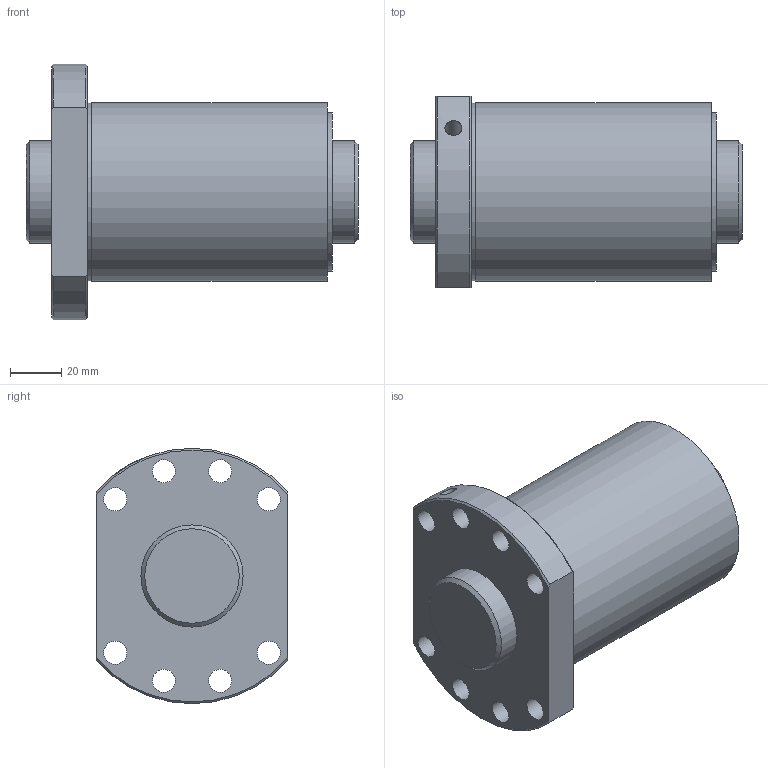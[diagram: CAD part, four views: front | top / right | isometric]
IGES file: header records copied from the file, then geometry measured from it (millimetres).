
Start section: Data from Parasolid IGES Translator 26.0.171, Copyright(c) 2006 Siemens PLM Software. All Rights Reserved.
Global section: file name: SDA4020VA-5G0+130LC0(0G000).igs; native system: By Siemens PLM Incorporated; preprocessor: XPlus GENERIC/IGES 26.0.171; author: Noname; organization: Noname; date: 20240528.114224; units: millimetre
Bounding box: 130 x 75 x 100 mm (x, y, z)
Surface area: 71288.5 mm2 (no closed solid volume)
Topology: 0 solids, 0 shells, 33 faces, 154 edges, 134 vertices
Faces by surface type: revolution 24, extrusion 9
